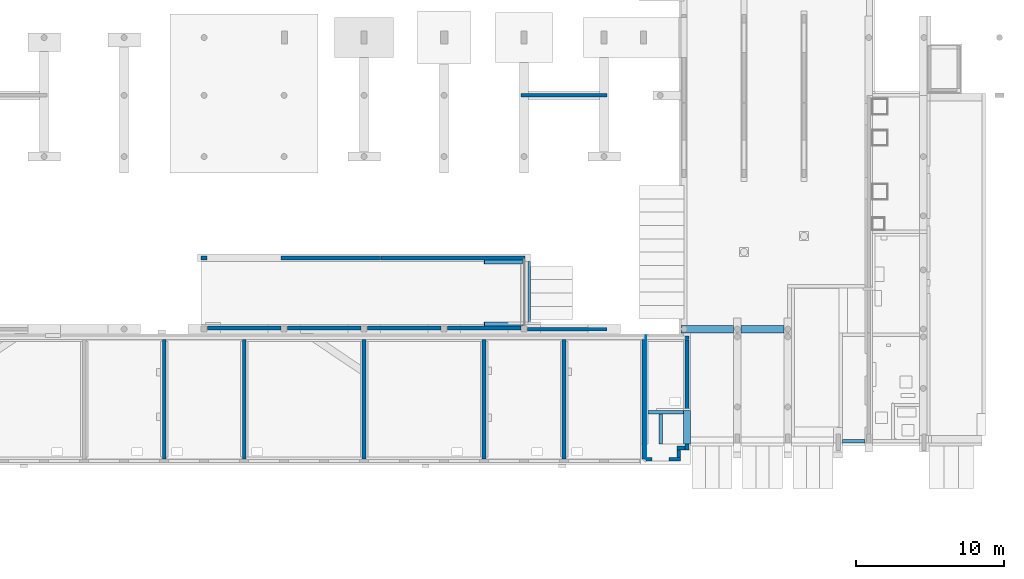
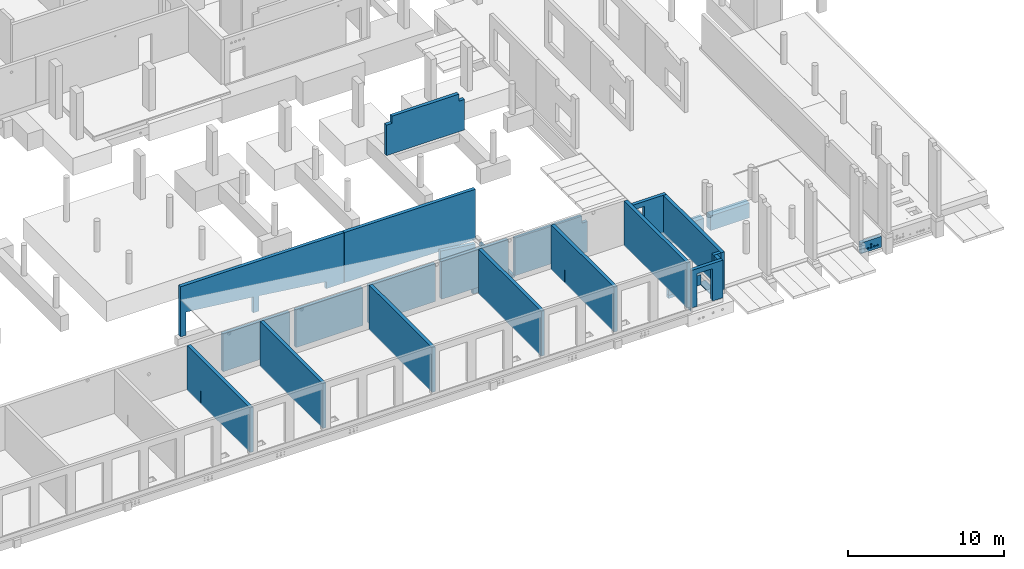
# One storey, part 44 of 60: 30 walls, 21 openings.
"""IFC2X3 building model written with IfcOpenShell, lengths in millimetres."""

import ifcopenshell
import ifcopenshell.guid

model = None  # the IFC model being written
_history = None  # IfcOwnerHistory: only IFC2X3 demands one
_inside = {}  # id of a spatial element -> (the spatial element, [elements in it])
_under = {}  # id of a project, library or spatial element -> (it, [spatial elements below it])
_declared = {}  # id of a project -> (the project, [libraries it declares])
_typed = {}  # id of a type object -> (the type object, [elements of that type])
_made_of = {}  # id of a material, layer set ... -> (it, [elements and type objects made of it])


def new_model(schema):
    """Start an empty IFC model of exactly this schema.

    Asked for "IFC4X3", IfcOpenShell would pick the latest addendum, in which some entities
    have other attributes; the version numbers below select the first issue.
    IFC2X3 requires an IfcOwnerHistory on every rooted entity: one is made here for all.
    """
    global model, _history
    if schema == "IFC4X3":
        model = ifcopenshell.file(schema_version=(4, 3, 0, 0))
    else:
        model = ifcopenshell.file(schema=schema)
    _inside.clear()
    _under.clear()
    _declared.clear()
    _typed.clear()
    _made_of.clear()
    _history = None
    if model.schema == "IFC2X3":
        org = make("IfcOrganization", Name="unknown")
        user = make(
            "IfcPersonAndOrganization",
            ThePerson=make("IfcPerson", FamilyName="unknown"),
            TheOrganization=org,
        )
        app = make(
            "IfcApplication",
            ApplicationDeveloper=org,
            Version="unknown",
            ApplicationFullName="unknown",
            ApplicationIdentifier="unknown",
        )
        _history = make(
            "IfcOwnerHistory",
            OwningUser=user,
            OwningApplication=app,
            ChangeAction="ADDED",
            CreationDate=0,
        )
    return model


def make(cls, **values):
    """One entity of the class cls with the attributes given. An attribute that is None is left unset."""
    return model.create_entity(
        cls, **{name: value for name, value in values.items() if value is not None}
    )


def entity(cls, *values):
    """Any entity or typed value of the class cls, its attributes in the order of the schema. None: left unset."""
    e = model.create_entity(cls)
    for i, value in enumerate(values):
        if value is not None:
            e[i] = value
    return e


def rooted(cls, **values):
    """An entity with a GlobalId (a new one), such as an element, a storey or a relation."""
    return make(cls, GlobalId=ifcopenshell.guid.new(), OwnerHistory=_history, **values)


def si_unit(unit_type, name, prefix=None):
    """IfcSIUnit, for example si_unit("LENGTHUNIT", "METRE", prefix="MILLI")."""
    return make("IfcSIUnit", UnitType=unit_type, Prefix=prefix, Name=name)


def converted_unit(unit_type, name, factor, base, dimensions=None, offset=None):
    """IfcConversionBasedUnit, such as the inch: factor (a typed value) times the base unit."""
    return make(
        "IfcConversionBasedUnit"
        if offset is None
        else "IfcConversionBasedUnitWithOffset",
        ConversionOffset=offset,
        Dimensions=None
        if dimensions is None
        else entity("IfcDimensionalExponents", *dimensions),
        UnitType=unit_type,
        Name=name,
        ConversionFactor=make(
            "IfcMeasureWithUnit", ValueComponent=factor, UnitComponent=base
        ),
    )


def derived_unit(unit_type, elements):
    """IfcDerivedUnit: a product of units, each with its exponent."""
    return make(
        "IfcDerivedUnit",
        Elements=[
            make("IfcDerivedUnitElement", Unit=unit, Exponent=power)
            for unit, power in elements
        ],
        UnitType=unit_type,
    )


def assignment(units):
    """IfcUnitAssignment: the units of a project."""
    return None if units is None else make("IfcUnitAssignment", Units=units)


def point(xyz):
    """IfcCartesianPoint."""
    return None if xyz is None else make("IfcCartesianPoint", Coordinates=xyz)


def direction(xyz):
    """IfcDirection."""
    return None if xyz is None else make("IfcDirection", DirectionRatios=xyz)


def frame(location, z_axis=None, x_axis=None):
    """IfcAxis2Placement3D, a coordinate frame: its origin and axes. An axis left out is left unset."""
    return make(
        "IfcAxis2Placement3D",
        Location=point(location),
        Axis=direction(z_axis),
        RefDirection=direction(x_axis),
    )


def frame_2d(location, x_axis=None):
    """IfcAxis2Placement2D, a coordinate frame in the plane: its origin and x axis."""
    return make(
        "IfcAxis2Placement2D", Location=point(location), RefDirection=direction(x_axis)
    )


def origin():
    """The frame at (0, 0, 0) with its axes left unset."""
    return frame((0.0, 0.0, 0.0))


def origin_2d_with_axis():
    """The frame at (0, 0) in the plane with the x axis (1, 0) written out."""
    return frame_2d((0.0, 0.0), x_axis=(1.0, 0.0))


def place(relative_to, where):
    """IfcLocalPlacement: puts the frame where relative to a parent placement (None: the world)."""
    return make(
        "IfcLocalPlacement", PlacementRelTo=relative_to, RelativePlacement=where
    )


def context(
    kind, dimensions, precision=None, world=None, true_north=None, identifier=None
):
    """IfcGeometricRepresentationContext, for example the 3D "Model" context."""
    return make(
        "IfcGeometricRepresentationContext",
        ContextIdentifier=identifier,
        ContextType=kind,
        CoordinateSpaceDimension=dimensions,
        Precision=precision,
        WorldCoordinateSystem=world,
        TrueNorth=true_north,
    )


def subcontext(parent, identifier, kind, view, scale=None):
    """IfcGeometricRepresentationSubContext, for example "Body" below "Model"."""
    return make(
        "IfcGeometricRepresentationSubContext",
        ContextIdentifier=identifier,
        ContextType=kind,
        ParentContext=parent,
        TargetScale=scale,
        TargetView=view,
    )


def project(units=None, contexts=None):
    """IfcProject with its units and contexts."""
    return rooted(
        "IfcProject",
        Name="project",
        RepresentationContexts=contexts,
        UnitsInContext=assignment(units),
    )


def spatial(cls, under=None, at=None, **own):
    """A site, building, storey or space (cls), placed at a placement, below another one or the project."""
    s = rooted(cls, ObjectPlacement=at, **own)
    if under is not None:
        _under.setdefault(under.id(), (under, []))[1].append(s)
    return s


def polyline(points):
    """IfcPolyline through the points."""
    return make("IfcPolyline", Points=[point(p) for p in points])


def profile(cls, at=None, kind="AREA", **sizes):
    """A parametric profile (cls). Its sizes go by their IFC names, for example OverallWidth=200.0."""
    return make(cls, ProfileType=kind, Position=at, **sizes)


def rectangle(**sizes):
    """IfcRectangleProfileDef."""
    return profile("IfcRectangleProfileDef", **sizes)


def circle(**sizes):
    """IfcCircleProfileDef."""
    return profile("IfcCircleProfileDef", **sizes)


def outline(outer, holes=None, kind="AREA"):
    """IfcArbitraryClosedProfileDef: a profile drawn as a closed curve; with holes, ...WithVoids."""
    if holes is None:
        return make("IfcArbitraryClosedProfileDef", ProfileType=kind, OuterCurve=outer)
    return make(
        "IfcArbitraryProfileDefWithVoids",
        ProfileType=kind,
        OuterCurve=outer,
        InnerCurves=holes,
    )


def extrude(swept, where, along, depth):
    """IfcExtrudedAreaSolid: the profile swept, set in the frame where, extruded along a direction by depth."""
    return make(
        "IfcExtrudedAreaSolid",
        SweptArea=swept,
        Position=where,
        ExtrudedDirection=direction(along),
        Depth=depth,
    )


def clip(a, b, op="DIFFERENCE"):
    """IfcBooleanClippingResult: the solid a cut by the half space b."""
    return make(
        "IfcBooleanClippingResult", Operator=op, FirstOperand=a, SecondOperand=b
    )


def halfspace(plane, agree):
    """IfcHalfSpaceSolid: all space on one side of the plane z = 0 of the frame plane."""
    return make(
        "IfcHalfSpaceSolid",
        BaseSurface=make("IfcPlane", Position=plane),
        AgreementFlag=agree,
    )


def bounded_halfspace(plane, agree, where, boundary):
    """IfcPolygonalBoundedHalfSpace: a half space limited to a polygon's prism."""
    return make(
        "IfcPolygonalBoundedHalfSpace",
        BaseSurface=make("IfcPlane", Position=plane),
        AgreementFlag=agree,
        Position=where,
        PolygonalBoundary=boundary,
    )


def shape(context_of_items, identifier, shape_type, items):
    """IfcShapeRepresentation: the items that make up one representation, for example the "Body"."""
    return make(
        "IfcShapeRepresentation",
        ContextOfItems=context_of_items,
        RepresentationIdentifier=identifier,
        RepresentationType=shape_type,
        Items=items,
    )


def material(Name=None, Category=None):
    """IfcMaterial."""
    return make("IfcMaterial", Name=Name, Category=Category)


def layer(
    of_material, thickness, ventilated=None, Name=None, Category=None, Priority=None
):
    """IfcMaterialLayer: one layer of a wall or slab, of a material (None: an air gap)."""
    return make(
        "IfcMaterialLayer",
        Material=of_material,
        LayerThickness=thickness,
        IsVentilated=ventilated,
        Name=Name,
        Category=Category,
        Priority=Priority,
    )


def layer_set(layers, Name=None):
    """IfcMaterialLayerSet."""
    return make("IfcMaterialLayerSet", MaterialLayers=layers, LayerSetName=Name)


def layer_usage(for_layer_set, set_direction, sense, offset, extent=None):
    """IfcMaterialLayerSetUsage: how a layer set lies in its element."""
    return make(
        "IfcMaterialLayerSetUsage",
        ForLayerSet=for_layer_set,
        LayerSetDirection=set_direction,
        DirectionSense=sense,
        OffsetFromReferenceLine=offset,
        ReferenceExtent=extent,
    )


def made_of(thing, what):
    """Note that an element or type object is made of a material, layer set ...; save() writes the relation."""
    if what is not None:
        _made_of.setdefault(what.id(), (what, []))[1].append(thing)
    return thing


def type_object(cls, material=None, **own):
    """A type object (cls), such as IfcWallType, which elements share."""
    return made_of(rooted(cls, **own), material)


def element(
    cls,
    number,
    at=None,
    inside=None,
    cuts=None,
    type_object=None,
    material=None,
    context=None,
    identifier="Body",
    shape_type=None,
    held_by="IfcProductDefinitionShape",
    body=None,
    shapes=None,
    **own,
):
    """One element of the class cls, such as IfcWall. Its Tag is "e" and its number.

    at: its placement. inside: the storey or other place that contains it. cuts: it is an
    opening in that element (IfcRelVoidsElement). A single representation is given by context,
    identifier, shape_type and body (its items); several are given by shapes. held_by: the class
    of the entity that holds the representations. save() writes the other relations.
    """
    e = rooted(cls, Tag="e%d" % number, ObjectPlacement=at, **own)
    if body is not None:
        shapes = [shape(context, identifier, shape_type, body)]
    if shapes is not None:
        e.Representation = make(held_by, Representations=shapes)
    if inside is not None:
        _inside.setdefault(inside.id(), (inside, []))[1].append(e)
    if cuts is not None:
        rooted(
            "IfcRelVoidsElement", RelatingBuildingElement=cuts, RelatedOpeningElement=e
        )
    if type_object is not None:
        _typed.setdefault(type_object.id(), (type_object, []))[1].append(e)
    return made_of(e, material)


def aggregate(whole, parts):
    """IfcRelAggregates: a whole, such as a stair, and the parts it consists of."""
    return rooted("IfcRelAggregates", RelatingObject=whole, RelatedObjects=parts)


def save(model, path):
    """Write the relations noted so far, then the file.

    IfcRelAggregates (storeys below a building ...), IfcRelContainedInSpatialStructure (elements
    in a storey), IfcRelDefinesByType, IfcRelAssociatesMaterial and IfcRelDeclares: one each for
    every whole, place, type object, material and project.
    """
    for whole, parts in _under.values():
        aggregate(whole, parts)
    for where, things in _inside.values():
        rooted(
            "IfcRelContainedInSpatialStructure",
            RelatedElements=things,
            RelatingStructure=where,
        )
    for kind, things in _typed.values():
        rooted("IfcRelDefinesByType", RelatedObjects=things, RelatingType=kind)
    for what, things in _made_of.values():
        rooted("IfcRelAssociatesMaterial", RelatedObjects=things, RelatingMaterial=what)
    for by, libraries in _declared.values():
        rooted("IfcRelDeclares", RelatingContext=by, RelatedDefinitions=libraries)
    model.write(path)


model = new_model("IFC2X3")

# Units and contexts
model_context = context("Model", 3, precision=0.01, world=origin(), true_north=direction((6.12303176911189e-17, 1.0)))
body_context = subcontext(model_context, "Body", "Model", "MODEL_VIEW")
ifc_project = project(units=[si_unit("LENGTHUNIT", "METRE", prefix="MILLI"), si_unit("AREAUNIT", "SQUARE_METRE"), si_unit("VOLUMEUNIT", "CUBIC_METRE"), converted_unit("PLANEANGLEUNIT", "DEGREE", entity("IfcRatioMeasure", 0.0174532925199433), si_unit("PLANEANGLEUNIT", "RADIAN"), dimensions=[0, 0, 0, 0, 0, 0, 0]), si_unit("MASSUNIT", "GRAM", prefix="KILO"), derived_unit("MASSDENSITYUNIT", [(si_unit("MASSUNIT", "GRAM", prefix="KILO"), 1), (si_unit("LENGTHUNIT", "METRE"), -3)]), si_unit("TIMEUNIT", "SECOND"), si_unit("FREQUENCYUNIT", "HERTZ"), si_unit("THERMODYNAMICTEMPERATUREUNIT", "DEGREE_CELSIUS"), derived_unit("THERMALTRANSMITTANCEUNIT", [(si_unit("MASSUNIT", "GRAM", prefix="KILO"), 1), (si_unit("THERMODYNAMICTEMPERATUREUNIT", "KELVIN"), -1), (si_unit("TIMEUNIT", "SECOND"), -3)]), derived_unit("VOLUMETRICFLOWRATEUNIT", [(si_unit("LENGTHUNIT", "METRE"), 3), (si_unit("TIMEUNIT", "SECOND"), -1)]), si_unit("ELECTRICCURRENTUNIT", "AMPERE"), si_unit("ELECTRICVOLTAGEUNIT", "VOLT"), si_unit("POWERUNIT", "WATT"), si_unit("FORCEUNIT", "NEWTON", prefix="KILO"), si_unit("ILLUMINANCEUNIT", "LUX"), si_unit("LUMINOUSFLUXUNIT", "LUMEN"), si_unit("LUMINOUSINTENSITYUNIT", "CANDELA"), derived_unit("USERDEFINED", [(si_unit("MASSUNIT", "GRAM", prefix="KILO"), -1), (si_unit("LENGTHUNIT", "METRE"), -2), (si_unit("TIMEUNIT", "SECOND"), 3), (si_unit("LUMINOUSFLUXUNIT", "LUMEN"), 1)]), derived_unit("LINEARVELOCITYUNIT", [(si_unit("LENGTHUNIT", "METRE"), 1), (si_unit("TIMEUNIT", "SECOND"), -1)]), si_unit("PRESSUREUNIT", "PASCAL"), derived_unit("USERDEFINED", [(si_unit("LENGTHUNIT", "METRE"), -2), (si_unit("MASSUNIT", "GRAM", prefix="KILO"), 1), (si_unit("TIMEUNIT", "SECOND"), -2)])], contexts=[model_context])

# Site, building, storey
site_placement = place(None, origin())
site = spatial("IfcSite", under=ifc_project, at=site_placement, Name="Default", CompositionType="ELEMENT")
building_placement = place(site_placement, origin())
building = spatial("IfcBuilding", under=site, at=building_placement, Name="niet gebruiken", CompositionType="ELEMENT")
storey_placement = place(building_placement, origin())
storey = spatial("IfcBuildingStorey", under=building, at=storey_placement, Name="00 begane grond", CompositionType="ELEMENT", Elevation=0.0)

# Wall, openings
ifc_material_1 = material(Name="NLRS_f2_beton ihwg")
ifc_layer_1 = layer(ifc_material_1, 250.0)
ifc_layer_set_1 = layer_set([ifc_layer_1], Name="Basic Wall:NLRS_22.21_WA_beton ihwg d=250_gen")
ifc_layer_usage_1 = layer_usage(ifc_layer_set_1, "AXIS2", "NEGATIVE", 125.0)
wall_type_1 = type_object("IfcWallType", Name="Basic Wall:NLRS_22.21_WA_beton ihwg d=250_gen", PredefinedType="STANDARD", material=ifc_layer_set_1)
wall_1_placement = place(storey_placement, frame((67500.0, 8496.0, -160.0), z_axis=(0.0, 0.0, 1.0), x_axis=(0.0, -1.0, 0.0)))
wall_1 = element("IfcWallStandardCase", 1, at=wall_1_placement, inside=storey, type_object=wall_type_1, material=ifc_layer_usage_1, Name="Basic Wall:NLRS_22.21_WA_beton ihwg d=250_gen", ObjectType="Basic Wall:NLRS_22.21_WA_beton ihwg d=250_gen", context=body_context, shape_type="SweptSolid", body=[
    extrude(rectangle(XDim=8075.99999999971, YDim=249.999999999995, at=frame_2d((4037.99999999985, 0.0), x_axis=(-1.0, 0.0))), origin(), (0.0, 0.0, 1.0), 3510.00000000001),
])
opening_1_placement = place(wall_1_placement, origin())
element("IfcOpeningElement", 2, at=opening_1_placement, cuts=wall_1, Name="Basic Wall:NLRS_22.21_WA_beton ihwg d=250_gen", ObjectType="Recess", context=body_context, shape_type="SweptSolid", body=[
    extrude(rectangle(XDim=940.0, YDim=50.0000000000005, at=frame_2d((0.0, 5.41788836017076e-13), x_axis=(1.0, 0.0))), frame((1550.0, 85.0, 540.0), z_axis=(0.0, 1.0, 0.0), x_axis=(0.0, 0.0, -1.0)), (0.0, 0.0, 1.0), 40.0000000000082),
])
opening_2_placement = place(wall_1_placement, origin())
element("IfcOpeningElement", 3, at=opening_2_placement, cuts=wall_1, Name="Basic Wall:NLRS_22.21_WA_beton ihwg d=250_gen", ObjectType="Recess", context=body_context, shape_type="SweptSolid", body=[
    extrude(rectangle(XDim=940.0, YDim=50.0000000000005, at=frame_2d((0.0, -5.41788836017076e-13), x_axis=(1.0, 0.0))), frame((1750.0, -125.0, 540.0), z_axis=(0.0, 1.0, 0.0), x_axis=(0.0, 0.0, -1.0)), (0.0, 0.0, 1.0), 40.0000000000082),
])

# Wall, opening
ifc_layer_usage_2 = layer_usage(ifc_layer_set_1, "AXIS2", "NEGATIVE", 125.0)
wall_2_placement = place(storey_placement, frame((72900.0, 8496.0, -160.0), z_axis=(0.0, 0.0, 1.0), x_axis=(0.0, -1.0, 0.0)))
wall_2 = element("IfcWallStandardCase", 4, at=wall_2_placement, inside=storey, type_object=wall_type_1, material=ifc_layer_usage_2, Name="Basic Wall:NLRS_22.21_WA_beton ihwg d=250_gen", ObjectType="Basic Wall:NLRS_22.21_WA_beton ihwg d=250_gen", context=body_context, shape_type="SweptSolid", body=[
    extrude(rectangle(XDim=8075.99999999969, YDim=249.999999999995, at=frame_2d((4037.99999999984, 0.0), x_axis=(-1.0, 0.0))), origin(), (0.0, 0.0, 1.0), 3510.00000000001),
])
opening_3_placement = place(wall_2_placement, origin())
element("IfcOpeningElement", 5, at=opening_3_placement, cuts=wall_2, Name="Basic Wall:NLRS_22.21_WA_beton ihwg d=250_gen", ObjectType="Recess", context=body_context, shape_type="SweptSolid", body=[
    extrude(rectangle(XDim=940.0, YDim=50.0000000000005, at=frame_2d((0.0, 5.41788836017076e-13), x_axis=(1.0, 0.0))), frame((1550.0, 85.0, 540.0), z_axis=(0.0, 1.0, 0.0), x_axis=(0.0, 0.0, -1.0)), (0.0, 0.0, 1.0), 40.0000000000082),
])

# Wall
ifc_layer_usage_3 = layer_usage(ifc_layer_set_1, "AXIS2", "NEGATIVE", 125.0)
wall_3_placement = place(storey_placement, frame((81000.0, 8496.0, -160.0), z_axis=(0.0, 0.0, 1.0), x_axis=(0.0, -1.0, 0.0)))
element("IfcWallStandardCase", 6, at=wall_3_placement, inside=storey, type_object=wall_type_1, material=ifc_layer_usage_3, Name="Basic Wall:NLRS_22.21_WA_beton ihwg d=250_gen", ObjectType="Basic Wall:NLRS_22.21_WA_beton ihwg d=250_gen", context=body_context, shape_type="SweptSolid", body=[
    extrude(rectangle(XDim=8075.99999999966, YDim=250.000000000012, at=frame_2d((4037.99999999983, 0.0), x_axis=(-1.0, 0.0))), origin(), (0.0, 0.0, 1.0), 3510.00000000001),
])

# Wall, opening
ifc_layer_usage_4 = layer_usage(ifc_layer_set_1, "AXIS2", "NEGATIVE", 125.0)
wall_4_placement = place(storey_placement, frame((89100.0, 8496.0, -160.0), z_axis=(0.0, 0.0, 1.0), x_axis=(0.0, -1.0, 0.0)))
wall_4 = element("IfcWallStandardCase", 7, at=wall_4_placement, inside=storey, type_object=wall_type_1, material=ifc_layer_usage_4, Name="Basic Wall:NLRS_22.21_WA_beton ihwg d=250_gen", ObjectType="Basic Wall:NLRS_22.21_WA_beton ihwg d=250_gen", context=body_context, shape_type="SweptSolid", body=[
    extrude(rectangle(XDim=8075.99999999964, YDim=250.000000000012, at=frame_2d((4037.99999999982, 0.0), x_axis=(-1.0, 0.0))), origin(), (0.0, 0.0, 1.0), 3510.00000000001),
])
opening_4_placement = place(wall_4_placement, origin())
element("IfcOpeningElement", 8, at=opening_4_placement, cuts=wall_4, Name="Basic Wall:NLRS_22.21_WA_beton ihwg d=250_gen", ObjectType="Recess", context=body_context, shape_type="SweptSolid", body=[
    extrude(rectangle(XDim=940.0, YDim=50.0000000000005, at=frame_2d((0.0, 5.41788836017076e-13), x_axis=(1.0, 0.0))), frame((1750.0, -125.0, 540.0), z_axis=(0.0, 1.0, 0.0), x_axis=(0.0, 0.0, -1.0)), (0.0, 0.0, 1.0), 39.9999999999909),
])

# Wall, openings
ifc_layer_usage_5 = layer_usage(ifc_layer_set_1, "AXIS2", "NEGATIVE", 125.0)
wall_5_placement = place(storey_placement, frame((94500.0, 8496.0, -160.0), z_axis=(0.0, 0.0, 1.0), x_axis=(0.0, -1.0, 0.0)))
wall_5 = element("IfcWallStandardCase", 9, at=wall_5_placement, inside=storey, type_object=wall_type_1, material=ifc_layer_usage_5, Name="Basic Wall:NLRS_22.21_WA_beton ihwg d=250_gen", ObjectType="Basic Wall:NLRS_22.21_WA_beton ihwg d=250_gen", context=body_context, shape_type="SweptSolid", body=[
    extrude(rectangle(XDim=8075.99999999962, YDim=250.000000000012, at=frame_2d((4037.99999999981, 0.0), x_axis=(-1.0, 0.0))), origin(), (0.0, 0.0, 1.0), 3510.00000000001),
])
opening_5_placement = place(wall_5_placement, origin())
element("IfcOpeningElement", 10, at=opening_5_placement, cuts=wall_5, Name="Basic Wall:NLRS_22.21_WA_beton ihwg d=250_gen", ObjectType="Recess", context=body_context, shape_type="SweptSolid", body=[
    extrude(rectangle(XDim=940.0, YDim=50.0000000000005, at=frame_2d((0.0, 5.41788836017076e-13), x_axis=(1.0, 0.0))), frame((1750.0, -125.0, 540.0), z_axis=(0.0, 1.0, 0.0), x_axis=(0.0, 0.0, -1.0)), (0.0, 0.0, 1.0), 39.9999999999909),
])
opening_6_placement = place(wall_5_placement, origin())
element("IfcOpeningElement", 11, at=opening_6_placement, cuts=wall_5, Name="Basic Wall:NLRS_22.21_WA_beton ihwg d=250_gen", ObjectType="Recess", context=body_context, shape_type="SweptSolid", body=[
    extrude(rectangle(XDim=940.0, YDim=50.0000000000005, at=frame_2d((0.0, 5.41788836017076e-13), x_axis=(1.0, 0.0))), frame((1550.0, 85.0, 540.0), z_axis=(0.0, 1.0, 0.0), x_axis=(0.0, 0.0, -1.0)), (0.0, 0.0, 1.0), 39.9999999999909),
])

# Wall
ifc_layer_usage_6 = layer_usage(ifc_layer_set_1, "AXIS2", "NEGATIVE", 125.0)
wall_6_placement = place(storey_placement, frame((99900.0, 8496.0, -160.0), z_axis=(0.0, 0.0, 1.0), x_axis=(0.0, -1.0, 0.0)))
element("IfcWallStandardCase", 12, at=wall_6_placement, inside=storey, type_object=wall_type_1, material=ifc_layer_usage_6, Name="Basic Wall:NLRS_22.21_WA_beton ihwg d=250_gen", ObjectType="Basic Wall:NLRS_22.21_WA_beton ihwg d=250_gen", context=body_context, shape_type="SweptSolid", body=[
    extrude(rectangle(XDim=8075.9999999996, YDim=250.000000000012, at=frame_2d((4037.9999999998, 0.0), x_axis=(-1.0, 0.0))), origin(), (0.0, 0.0, 1.0), 3510.00000000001),
])

# Wall, openings
ifc_layer_usage_7 = layer_usage(ifc_layer_set_1, "AXIS2", "NEGATIVE", 125.0)
wall_7_placement = place(storey_placement, frame((100150.0, 3575.0, -1400.0)))
wall_7 = element("IfcWallStandardCase", 13, at=wall_7_placement, inside=storey, type_object=wall_type_1, material=ifc_layer_usage_7, Name="Basic Wall:NLRS_22.21_WA_beton ihwg d=250_gen", ObjectType="Basic Wall:NLRS_22.21_WA_beton ihwg d=250_gen", context=body_context, shape_type="Clipping", body=[
    clip(clip(extrude(rectangle(XDim=2400.00000000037, YDim=250.000000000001, at=frame_2d((1200.00000000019, -8.5265128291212e-14), x_axis=(-1.0, 0.0))), origin(), (0.0, 0.0, 1.0), 908.0), bounded_halfspace(frame((600.0, -125.0, 250.0), z_axis=(0.0, 0.0, 1.0), x_axis=(0.0, 1.0, 0.0)), True, frame((600.0, -125.0, 250.0), z_axis=(0.0, 0.0, 1.0), x_axis=(0.0, 1.0, 0.0)), polyline([(0.0, 0.0), (0.0, -150.0), (0.0, -400.0), (0.0, -1800.0), (250.0, -1800.0), (250.0, 0.0), (0.0, 0.0)]))), bounded_halfspace(frame((600.0, 125.0, 250.0), z_axis=(-1.0, 0.0, 0.0), x_axis=(0.0, 0.0, 1.0)), True, frame((600.0, 125.0, 250.0), z_axis=(-1.0, 0.0, 0.0), x_axis=(0.0, 0.0, 1.0)), polyline([(0.0, 0.0), (-250.0, 0.0), (-250.0, -250.0), (0.0, -250.0), (0.0, 0.0)]))),
])
opening_7_placement = place(wall_7_placement, origin())
element("IfcOpeningElement", 14, at=opening_7_placement, cuts=wall_7, Name="Basic Wall:NLRS_22.21_WA_beton ihwg d=250_gen", ObjectType="Opening", context=body_context, shape_type="SweptSolid", body=[
    extrude(circle(Radius=80.0, at=frame_2d((0.0, -2.70716782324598e-13), x_axis=(1.0, 0.0))), frame((620.0, -125.0, 390.0), z_axis=(0.0, 1.0, 0.0), x_axis=(1.0, 0.0, 0.0)), (0.0, 0.0, 1.0), 250.0),
])
opening_8_placement = place(wall_7_placement, origin())
element("IfcOpeningElement", 15, at=opening_8_placement, cuts=wall_7, Name="Basic Wall:NLRS_22.21_WA_beton ihwg d=250_gen", ObjectType="Opening", context=body_context, shape_type="SweptSolid", body=[
    extrude(circle(Radius=80.0, at=frame_2d((0.0, -2.70716782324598e-13), x_axis=(1.0, 0.0))), frame((320.0, -125.0, 390.0), z_axis=(0.0, 1.0, 0.0), x_axis=(1.0, 0.0, 0.0)), (0.0, 0.0, 1.0), 250.0),
])

# Wall, opening
ifc_material_2 = material(Name="NLRS_f2_beton prefab")
ifc_layer_2 = layer(ifc_material_2, 250.0)
ifc_layer_set_2 = layer_set([ifc_layer_2], Name="Basic Wall:NLRS_21.21_WA_beton prefab d=250_gen")
ifc_layer_usage_8 = layer_usage(ifc_layer_set_2, "AXIS2", "NEGATIVE", 125.0)
wall_type_2 = type_object("IfcWallType", Name="Basic Wall:NLRS_21.21_WA_beton prefab d=250_gen", PredefinedType="STANDARD", material=ifc_layer_set_2)
wall_8_placement = place(storey_placement, frame((100045.0, 8621.0, -170.0)))
wall_8 = element("IfcWallStandardCase", 16, at=wall_8_placement, inside=storey, type_object=wall_type_2, material=ifc_layer_usage_8, Name="Basic Wall:NLRS_21.21_WA_beton prefab d=250_gen", ObjectType="Basic Wall:NLRS_21.21_WA_beton prefab d=250_gen", context=body_context, shape_type="SweptSolid", body=[
    extrude(rectangle(XDim=2880.00000000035, YDim=249.999999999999, at=frame_2d((1440.00000000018, -5.6843418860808e-14), x_axis=(-1.0, 0.0))), origin(), (0.0, 0.0, 1.0), 2940.00000000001),
])
opening_9_placement = place(wall_8_placement, origin())
element("IfcOpeningElement", 17, at=opening_9_placement, cuts=wall_8, Name="Basic Wall:NLRS_21.21_WA_beton prefab d=250_gen", ObjectType="Opening", context=body_context, shape_type="SweptSolid", body=[
    extrude(rectangle(XDim=2555.0, YDim=1015.99999999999, at=frame_2d((0.0, 8.66862137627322e-12), x_axis=(1.0, 0.0))), frame((724.000540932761, -125.0, 1277.5), z_axis=(0.0, 1.0, 0.0), x_axis=(0.0, 0.0, -1.0)), (0.0, 0.0, 1.0), 250.000000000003),
])

ifc_layer_usage_9 = layer_usage(ifc_layer_set_2, "AXIS2", "NEGATIVE", 125.0)
wall_9_placement = place(storey_placement, frame((100045.0, 410.0, -170.0)))
wall_9 = element("IfcWallStandardCase", 18, at=wall_9_placement, inside=storey, type_object=wall_type_2, material=ifc_layer_usage_9, Name="Basic Wall:NLRS_21.21_WA_beton prefab d=250_gen", ObjectType="Basic Wall:NLRS_21.21_WA_beton prefab d=250_gen", context=body_context, shape_type="SweptSolid", body=[
    extrude(rectangle(XDim=2330.00027871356, YDim=250.0, at=frame_2d((1165.00013935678, -2.8421709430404e-14), x_axis=(-1.0, 0.0))), origin(), (0.0, 0.0, 1.0), 2940.00000000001),
])
opening_10_placement = place(wall_9_placement, origin())
element("IfcOpeningElement", 19, at=opening_10_placement, cuts=wall_9, Name="Basic Wall:NLRS_21.21_WA_beton prefab d=250_gen", ObjectType="Opening", context=body_context, shape_type="SweptSolid", body=[
    extrude(rectangle(XDim=2545.0, YDim=1144.0, at=origin_2d_with_axis()), frame((972.0, -125.0, 1272.5), z_axis=(0.0, 1.0, 0.0), x_axis=(0.0, 0.0, -1.0)), (0.0, 0.0, 1.0), 250.000000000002),
])

# Walls
ifc_layer_usage_10 = layer_usage(ifc_layer_set_2, "AXIS2", "NEGATIVE", 125.0)
wall_10_placement = place(storey_placement, frame((102125.000278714, 1175.0, -170.0)))
element("IfcWallStandardCase", 20, at=wall_10_placement, inside=storey, type_object=wall_type_2, material=ifc_layer_usage_10, Name="Basic Wall:NLRS_21.21_WA_beton prefab d=250_gen", ObjectType="Basic Wall:NLRS_21.21_WA_beton prefab d=250_gen", context=body_context, shape_type="SweptSolid", body=[
    extrude(rectangle(XDim=549.999721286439, YDim=250.0, at=frame_2d((274.99986064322, 7.105427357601e-15), x_axis=(-1.0, 0.0))), origin(), (0.0, 0.0, 1.0), 2940.00000000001),
])
ifc_layer_usage_11 = layer_usage(ifc_layer_set_2, "AXIS2", "NEGATIVE", 125.0)
wall_11_placement = place(storey_placement, frame((102800.0, 1050.0, -170.0), z_axis=(0.0, 0.0, 1.0), x_axis=(0.0, 1.0, 0.0)))
element("IfcWallStandardCase", 21, at=wall_11_placement, inside=storey, type_object=wall_type_2, material=ifc_layer_usage_11, Name="Basic Wall:NLRS_21.21_WA_beton prefab d=250_gen", ObjectType="Basic Wall:NLRS_21.21_WA_beton prefab d=250_gen", context=body_context, shape_type="SweptSolid", body=[
    extrude(rectangle(XDim=7425.99999999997, YDim=250.000000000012, at=frame_2d((3712.99999999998, 7.17648163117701e-13), x_axis=(-1.0, 0.0))), origin(), (0.0, 0.0, 1.0), 2940.00000000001),
])
ifc_layer_usage_12 = layer_usage(ifc_layer_set_2, "AXIS2", "NEGATIVE", 125.0)
wall_12_placement = place(storey_placement, frame((102250.000278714, 535.0, -170.0), z_axis=(0.0, 0.0, 1.0), x_axis=(0.0, 1.0, 0.0)))
element("IfcWallStandardCase", 22, at=wall_12_placement, inside=storey, type_object=wall_type_2, material=ifc_layer_usage_12, Name="Basic Wall:NLRS_21.21_WA_beton prefab d=250_gen", ObjectType="Basic Wall:NLRS_21.21_WA_beton prefab d=250_gen", context=body_context, shape_type="SweptSolid", body=[
    extrude(rectangle(XDim=515.000000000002, YDim=250.000000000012, at=frame_2d((257.500000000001, 1.25055521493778e-12), x_axis=(-1.0, 0.0))), origin(), (0.0, 0.0, 1.0), 2940.00000000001),
])

# Wall, openings
ifc_layer_3 = layer(ifc_material_2, 250.0)
ifc_layer_set_3 = layer_set([ifc_layer_3], Name="Basic Wall:NLRS_22.21_WA_beton prefab d=250_gen")
ifc_layer_usage_13 = layer_usage(ifc_layer_set_3, "AXIS2", "NEGATIVE", 125.0)
wall_type_3 = type_object("IfcWallType", Name="Basic Wall:NLRS_22.21_WA_beton prefab d=250_gen", PredefinedType="STANDARD", material=ifc_layer_set_3)
wall_13_placement = place(storey_placement, frame((70000.0, 14001.0, -170.0)))
wall_13 = element("IfcWallStandardCase", 23, at=wall_13_placement, inside=storey, type_object=wall_type_3, material=ifc_layer_usage_13, Name="Basic Wall:NLRS_22.21_WA_beton prefab d=250_gen", ObjectType="Basic Wall:NLRS_22.21_WA_beton prefab d=250_gen", context=body_context, shape_type="SweptSolid", body=[
    extrude(rectangle(XDim=12120.0, YDim=249.999999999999, at=frame_2d((6060.0, 0.0), x_axis=(-1.0, 0.0))), origin(), (0.0, 0.0, 1.0), 3940.00000000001),
])
opening_11_placement = place(wall_13_placement, origin())
element("IfcOpeningElement", 24, at=opening_11_placement, cuts=wall_13, Name="Basic Wall:NLRS_22.21_WA_beton prefab d=250_gen", ObjectType="Opening", context=body_context, shape_type="SweptSolid", body=[
    extrude(outline(polyline([(-2500.0, -766.91532367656), (2500.0, -766.91532367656), (2500.0, 480.313471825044), (-2500.0, 1053.51717552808), (-2500.0, -766.91532367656)])), frame((2900.0, 125.0, 766.915323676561), z_axis=(0.0, -1.0, 0.0), x_axis=(1.0, 0.0, 0.0)), (0.0, 0.0, 1.0), 250.0),
])
opening_12_placement = place(wall_13_placement, origin())
element("IfcOpeningElement", 25, at=opening_12_placement, cuts=wall_13, Name="Basic Wall:NLRS_22.21_WA_beton prefab d=250_gen", ObjectType="Opening", context=body_context, shape_type="SweptSolid", body=[
    extrude(outline(polyline([(-2500.0, -437.665323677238), (2500.0, -437.665323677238), (2500.0, 117.063471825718), (-2500.0, 758.267175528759), (-2500.0, -437.665323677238)])), frame((8300.0, 125.0, 437.665323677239), z_axis=(0.0, -1.0, 0.0), x_axis=(1.0, 0.0, 0.0)), (0.0, 0.0, 1.0), 250.0),
])

# Walls
ifc_layer_usage_14 = layer_usage(ifc_layer_set_3, "AXIS2", "NEGATIVE", 125.0)
wall_14_placement = place(storey_placement, frame((82140.0, 14001.0, -170.0)))
element("IfcWallStandardCase", 26, at=wall_14_placement, inside=storey, type_object=wall_type_3, material=ifc_layer_usage_14, Name="Basic Wall:NLRS_22.21_WA_beton prefab d=250_gen", ObjectType="Basic Wall:NLRS_22.21_WA_beton prefab d=250_gen", context=body_context, shape_type="SweptSolid", body=[
    extrude(rectangle(XDim=9709.99983721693, YDim=249.999999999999, at=frame_2d((4854.99991860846, 4.54747350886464e-13), x_axis=(-1.0, 0.0))), origin(), (0.0, 0.0, 1.0), 3940.00000000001),
])
ifc_layer_usage_15 = layer_usage(ifc_layer_set_3, "AXIS2", "NEGATIVE", 125.0)
wall_15_placement = place(storey_placement, frame((70420.0, 9271.0, -170.0)))
element("IfcWallStandardCase", 27, at=wall_15_placement, inside=storey, type_object=wall_type_3, material=ifc_layer_usage_15, Name="Basic Wall:NLRS_22.21_WA_beton prefab d=250_gen", ObjectType="Basic Wall:NLRS_22.21_WA_beton prefab d=250_gen", context=body_context, shape_type="SweptSolid", body=[
    extrude(rectangle(XDim=4960.0, YDim=249.999999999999, at=frame_2d((2480.0, -1.63424829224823e-13), x_axis=(-1.0, 0.0))), origin(), (0.0, 0.0, 1.0), 2950.00000000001),
])
ifc_layer_usage_16 = layer_usage(ifc_layer_set_3, "AXIS2", "NEGATIVE", 125.0)
wall_16_placement = place(storey_placement, frame((75820.0, 9271.0, -170.0)))
element("IfcWallStandardCase", 28, at=wall_16_placement, inside=storey, type_object=wall_type_3, material=ifc_layer_usage_16, Name="Basic Wall:NLRS_22.21_WA_beton prefab d=250_gen", ObjectType="Basic Wall:NLRS_22.21_WA_beton prefab d=250_gen", context=body_context, shape_type="SweptSolid", body=[
    extrude(rectangle(XDim=4960.0, YDim=249.999999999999, at=frame_2d((2480.0, -7.105427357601e-14), x_axis=(-1.0, 0.0))), origin(), (0.0, 0.0, 1.0), 2950.00000000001),
])
ifc_layer_usage_17 = layer_usage(ifc_layer_set_3, "AXIS2", "NEGATIVE", 125.0)
wall_17_placement = place(storey_placement, frame((81220.0, 9271.0, -170.0)))
element("IfcWallStandardCase", 29, at=wall_17_placement, inside=storey, type_object=wall_type_3, material=ifc_layer_usage_17, Name="Basic Wall:NLRS_22.21_WA_beton prefab d=250_gen", ObjectType="Basic Wall:NLRS_22.21_WA_beton prefab d=250_gen", context=body_context, shape_type="SweptSolid", body=[
    extrude(rectangle(XDim=4960.0, YDim=249.999999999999, at=frame_2d((2480.0, -7.105427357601e-14), x_axis=(-1.0, 0.0))), origin(), (0.0, 0.0, 1.0), 2950.00000000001),
])
ifc_layer_usage_18 = layer_usage(ifc_layer_set_3, "AXIS2", "NEGATIVE", 125.0)
wall_18_placement = place(storey_placement, frame((86620.0, 9271.0, -170.0)))
element("IfcWallStandardCase", 30, at=wall_18_placement, inside=storey, type_object=wall_type_3, material=ifc_layer_usage_18, Name="Basic Wall:NLRS_22.21_WA_beton prefab d=250_gen", ObjectType="Basic Wall:NLRS_22.21_WA_beton prefab d=250_gen", context=body_context, shape_type="SweptSolid", body=[
    extrude(rectangle(XDim=4960.0, YDim=249.999999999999, at=frame_2d((2480.0, -7.105427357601e-14), x_axis=(-1.0, 0.0))), origin(), (0.0, 0.0, 1.0), 2950.00000000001),
])

# Wall, openings
ifc_layer_4 = layer(ifc_material_1, 250.0)
ifc_layer_set_4 = layer_set([ifc_layer_4], Name="Basic Wall:NLRS_16.21_WA_beton ihwg d=250_gen")
ifc_layer_usage_19 = layer_usage(ifc_layer_set_4, "AXIS2", "NEGATIVE", 125.0)
wall_type_4 = type_object("IfcWallType", Name="Basic Wall:NLRS_16.21_WA_beton ihwg d=250_gen", PredefinedType="STANDARD", material=ifc_layer_set_4)
wall_19_placement = place(storey_placement, frame((113300.000370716, 1625.0, -1300.0)))
wall_19 = element("IfcWallStandardCase", 31, at=wall_19_placement, inside=storey, type_object=wall_type_4, material=ifc_layer_usage_19, Name="Basic Wall:NLRS_16.21_WA_beton ihwg d=250_gen", ObjectType="Basic Wall:NLRS_16.21_WA_beton ihwg d=250_gen", context=body_context, shape_type="SweptSolid", body=[
    extrude(rectangle(XDim=1524.99962928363, YDim=250.0, at=frame_2d((762.499814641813, 0.0), x_axis=(-1.0, 0.0))), origin(), (0.0, 0.0, 1.0), 850.0),
])
opening_13_placement = place(wall_19_placement, origin())
element("IfcOpeningElement", 32, at=opening_13_placement, cuts=wall_19, Name="Basic Wall:NLRS_16.21_WA_beton ihwg d=250_gen", ObjectType="Opening", context=body_context, shape_type="SweptSolid", body=[
    extrude(circle(Radius=75.0, at=frame_2d((0.0, -1.35358391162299e-13), x_axis=(1.0, 0.0))), frame((992.0, -125.0, 250.0), z_axis=(0.0, 1.0, 0.0), x_axis=(-1.0, 0.0, 0.0)), (0.0, 0.0, 1.0), 250.0),
])
opening_14_placement = place(wall_19_placement, origin())
element("IfcOpeningElement", 33, at=opening_14_placement, cuts=wall_19, Name="Basic Wall:NLRS_16.21_WA_beton ihwg d=250_gen", ObjectType="Opening", context=body_context, shape_type="SweptSolid", body=[
    extrude(circle(Radius=75.0, at=frame_2d((0.0, -1.35358391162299e-13), x_axis=(1.0, 0.0))), frame((761.999629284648, -125.0, 480.0), z_axis=(0.0, 1.0, 0.0), x_axis=(-1.0, 0.0, 0.0)), (0.0, 0.0, 1.0), 250.0),
])
opening_15_placement = place(wall_19_placement, origin())
element("IfcOpeningElement", 34, at=opening_15_placement, cuts=wall_19, Name="Basic Wall:NLRS_16.21_WA_beton ihwg d=250_gen", ObjectType="Opening", context=body_context, shape_type="SweptSolid", body=[
    extrude(circle(Radius=75.0, at=frame_2d((0.0, -1.35358391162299e-13), x_axis=(1.0, 0.0))), frame((532.0, -125.0, 250.0), z_axis=(0.0, 1.0, 0.0), x_axis=(-1.0, 0.0, 0.0)), (0.0, 0.0, 1.0), 250.0),
])
opening_16_placement = place(wall_19_placement, origin())
element("IfcOpeningElement", 35, at=opening_16_placement, cuts=wall_19, Name="Basic Wall:NLRS_16.21_WA_beton ihwg d=250_gen", ObjectType="Opening", context=body_context, shape_type="SweptSolid", body=[
    extrude(circle(Radius=75.0, at=frame_2d((0.0, -1.35358391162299e-13), x_axis=(1.0, 0.0))), frame((1221.99962928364, -125.0, 250.0), z_axis=(0.0, 1.0, 0.0), x_axis=(-1.0, 0.0, 0.0)), (0.0, 0.0, 1.0), 250.0),
])
opening_17_placement = place(wall_19_placement, origin())
element("IfcOpeningElement", 36, at=opening_17_placement, cuts=wall_19, Name="Basic Wall:NLRS_16.21_WA_beton ihwg d=250_gen", ObjectType="Opening", context=body_context, shape_type="SweptSolid", body=[
    extrude(circle(Radius=75.0, at=frame_2d((0.0, -1.35358391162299e-13), x_axis=(1.0, 0.0))), frame((761.999629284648, -125.0, 250.0), z_axis=(0.0, 1.0, 0.0), x_axis=(-1.0, 0.0, 0.0)), (0.0, 0.0, 1.0), 250.0),
])
opening_18_placement = place(wall_19_placement, origin())
element("IfcOpeningElement", 37, at=opening_18_placement, cuts=wall_19, Name="Basic Wall:NLRS_16.21_WA_beton ihwg d=250_gen", ObjectType="Opening", context=body_context, shape_type="SweptSolid", body=[
    extrude(circle(Radius=75.0, at=frame_2d((0.0, -1.35358391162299e-13), x_axis=(1.0, 0.0))), frame((302.0, -125.0, 250.0), z_axis=(0.0, 1.0, 0.0), x_axis=(-1.0, 0.0, 0.0)), (0.0, 0.0, 1.0), 250.0),
])

# Walls
ifc_layer_usage_20 = layer_usage(ifc_layer_set_4, "AXIS2", "NEGATIVE", 125.0)
wall_20_placement = place(storey_placement, frame((100150.0, 3575.0, -1150.0)))
element("IfcWallStandardCase", 38, at=wall_20_placement, inside=storey, type_object=wall_type_4, material=ifc_layer_usage_20, Name="Basic Wall:NLRS_16.21_WA_beton ihwg d=250_gen", ObjectType="Basic Wall:NLRS_16.21_WA_beton ihwg d=250_gen", context=body_context, shape_type="SweptSolid", body=[
    extrude(rectangle(XDim=2400.00000000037, YDim=250.000000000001, at=frame_2d((1200.00000000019, -4.2632564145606e-14), x_axis=(-1.0, 0.0))), origin(), (0.0, 0.0, 1.0), 800.0),
])
ifc_layer_usage_21 = layer_usage(ifc_layer_set_4, "AXIS2", "NEGATIVE", 125.0)
wall_21_placement = place(storey_placement, frame((101025.0, 1450.0, -1150.0), z_axis=(0.0, 0.0, 1.0), x_axis=(0.0, 1.0, 0.0)))
element("IfcWallStandardCase", 39, at=wall_21_placement, inside=storey, type_object=wall_type_4, material=ifc_layer_usage_21, Name="Basic Wall:NLRS_16.21_WA_beton ihwg d=250_gen", ObjectType="Basic Wall:NLRS_16.21_WA_beton ihwg d=250_gen", context=body_context, shape_type="SweptSolid", body=[
    extrude(rectangle(XDim=1999.99999999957, YDim=250.000000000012, at=frame_2d((999.999999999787, 1.25766064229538e-12), x_axis=(-1.0, 0.0))), origin(), (0.0, 0.0, 1.0), 658.0),
])
ifc_layer_5 = layer(ifc_material_1, 500.0)
ifc_layer_set_5 = layer_set([ifc_layer_5], Name="Basic Wall:NLRS_16.21_WA_beton ihwg d=500_gen")
ifc_layer_usage_22 = layer_usage(ifc_layer_set_5, "AXIS2", "NEGATIVE", 250.0)
wall_type_5 = type_object("IfcWallType", Name="Basic Wall:NLRS_16.21_WA_beton ihwg d=500_gen", PredefinedType="STANDARD", material=ifc_layer_set_5)
wall_22_placement = place(storey_placement, frame((102400.0, 9196.0, -1600.0)))
element("IfcWallStandardCase", 40, at=wall_22_placement, inside=storey, type_object=wall_type_5, material=ifc_layer_usage_22, Name="Basic Wall:NLRS_16.21_WA_beton ihwg d=500_gen", ObjectType="Basic Wall:NLRS_16.21_WA_beton ihwg d=500_gen", context=body_context, shape_type="SweptSolid", body=[
    extrude(rectangle(XDim=3550.00037071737, YDim=500.000000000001, at=frame_2d((1775.00018535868, 0.0), x_axis=(-1.0, 0.0))), origin(), (0.0, 0.0, 1.0), 1150.0),
])
ifc_layer_usage_23 = layer_usage(ifc_layer_set_5, "AXIS2", "NEGATIVE", 250.0)
wall_23_placement = place(storey_placement, frame((106450.000370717, 9196.0, -1600.0)))
element("IfcWallStandardCase", 41, at=wall_23_placement, inside=storey, type_object=wall_type_5, material=ifc_layer_usage_23, Name="Basic Wall:NLRS_16.21_WA_beton ihwg d=500_gen", ObjectType="Basic Wall:NLRS_16.21_WA_beton ihwg d=500_gen", context=body_context, shape_type="SweptSolid", body=[
    extrude(rectangle(XDim=2899.99999999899, YDim=499.999999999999, at=frame_2d((1449.9999999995, 0.0), x_axis=(-1.0, 0.0))), origin(), (0.0, 0.0, 1.0), 1150.0),
])
ifc_layer_usage_24 = layer_usage(ifc_layer_set_5, "AXIS2", "NEGATIVE", 250.0)
wall_24_placement = place(storey_placement, frame((102800.0, 1450.0, -1150.0), z_axis=(0.0, 0.0, 1.0), x_axis=(0.0, 1.0, 0.0)))
element("IfcWallStandardCase", 42, at=wall_24_placement, inside=storey, type_object=wall_type_5, material=ifc_layer_usage_24, Name="Basic Wall:NLRS_16.21_WA_beton ihwg d=500_gen", ObjectType="Basic Wall:NLRS_16.21_WA_beton ihwg d=500_gen", context=body_context, shape_type="SweptSolid", body=[
    extrude(rectangle(XDim=2249.99999999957, YDim=499.99999999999, at=frame_2d((1124.99999999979, 0.0), x_axis=(-1.0, 0.0))), origin(), (0.0, 0.0, 1.0), 58.0000000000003),
])

# Wall, openings
ifc_layer_6 = layer(ifc_material_2, 250.0)
ifc_layer_set_6 = layer_set([ifc_layer_6], Name="Basic Wall:NLRS_16.21_WA_beton prefab d=250_gen")
ifc_layer_usage_25 = layer_usage(ifc_layer_set_6, "AXIS2", "NEGATIVE", 125.0)
wall_type_6 = type_object("IfcWallType", Name="Basic Wall:NLRS_16.21_WA_beton prefab d=250_gen", PredefinedType="STANDARD", material=ifc_layer_set_6)
wall_25_placement = place(storey_placement, frame((91600.0, 24976.0, -170.0)))
wall_25 = element("IfcWallStandardCase", 43, at=wall_25_placement, inside=storey, type_object=wall_type_6, material=ifc_layer_usage_25, Name="Basic Wall:NLRS_16.21_WA_beton prefab d=250_gen", ObjectType="Basic Wall:NLRS_16.21_WA_beton prefab d=250_gen", context=body_context, shape_type="SweptSolid", body=[
    extrude(rectangle(XDim=5799.99999999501, YDim=250.000000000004, at=frame_2d((2899.9999999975, -2.20268248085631e-13), x_axis=(-1.0, 0.0))), origin(), (0.0, 0.0, 1.0), 2950.00000000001),
])
opening_19_placement = place(wall_25_placement, origin())
element("IfcOpeningElement", 44, at=opening_19_placement, cuts=wall_25, Name="Basic Wall:NLRS_16.21_WA_beton prefab d=250_gen", ObjectType="Opening", context=body_context, shape_type="SweptSolid", body=[
    extrude(rectangle(XDim=560.00000000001, YDim=420.000000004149, at=frame_2d((0.0, 8.66862137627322e-12), x_axis=(1.0, 0.0))), frame((5590.0, 125.0, 2670.0), z_axis=(0.0, -1.0, 0.0), x_axis=(0.0, 0.0, 1.0)), (0.0, 0.0, 1.0), 250.0),
])
opening_20_placement = place(wall_25_placement, origin())
element("IfcOpeningElement", 45, at=opening_20_placement, cuts=wall_25, Name="Basic Wall:NLRS_16.21_WA_beton prefab d=250_gen", ObjectType="Opening", context=body_context, shape_type="SweptSolid", body=[
    extrude(rectangle(XDim=560.00000000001, YDim=420.000000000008, at=frame_2d((0.0, 0.0), x_axis=(0.0, 1.0))), frame((210.0, 125.0, 2670.0), z_axis=(0.0, -1.0, 0.0), x_axis=(-1.0, 0.0, 0.0)), (0.0, 0.0, 1.0), 250.0),
])

# Wall, opening
ifc_layer_usage_26 = layer_usage(ifc_layer_set_6, "AXIS2", "NEGATIVE", 125.0)
wall_26_placement = place(storey_placement, frame((92020.0, 9196.0, -170.0)))
wall_26 = element("IfcWallStandardCase", 46, at=wall_26_placement, inside=storey, type_object=wall_type_6, material=ifc_layer_usage_26, Name="Basic Wall:NLRS_16.21_WA_beton prefab d=250_gen", ObjectType="Basic Wall:NLRS_16.21_WA_beton prefab d=250_gen", context=body_context, shape_type="SweptSolid", body=[
    extrude(rectangle(XDim=5379.99999999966, YDim=249.999999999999, at=frame_2d((2689.99999999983, -6.3948846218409e-14), x_axis=(-1.0, 0.0))), origin(), (0.0, 0.0, 1.0), 2950.00000000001),
])
opening_21_placement = place(wall_26_placement, origin())
element("IfcOpeningElement", 47, at=opening_21_placement, cuts=wall_26, Name="Basic Wall:NLRS_16.21_WA_beton prefab d=250_gen", ObjectType="Opening", context=body_context, shape_type="SweptSolid", body=[
    extrude(rectangle(XDim=560.00000000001, YDim=420.000000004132, at=frame_2d((1.4210854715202e-13, 0.0), x_axis=(1.0, 0.0))), frame((5170.0, 125.0, 2670.0), z_axis=(0.0, -1.0, 0.0), x_axis=(0.0, 0.0, 1.0)), (0.0, 0.0, 1.0), 250.0),
])

# Walls
wall_type_7 = type_object("IfcWallType", Name="NLRS_16.12_SF_WPB_oplegnok ihwg beton_gen:200x200", PredefinedType="NOTDEFINED", material=ifc_material_1)
wall_27_placement = place(storey_placement, frame((92050.0, 9496.0, -600.0), z_axis=(0.0, 0.0, 1.0), x_axis=(0.0, 1.0, 0.0)))
element("IfcWall", 48, at=wall_27_placement, inside=storey, type_object=wall_type_7, material=ifc_material_1, Name="NLRS_16.12_SF_WPB_oplegnok ihwg beton_gen:200x200", ObjectType="NLRS_16.12_SF_WPB_oplegnok ihwg beton_gen:200x200", context=body_context, shape_type="SweptSolid", body=[
    extrude(rectangle(XDim=199.999999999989, YDim=4254.99999999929, at=frame_2d((8.66151594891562e-12, -652.500000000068), x_axis=(1.0, 0.0))), frame((1475.0, -100.0, 0.0), z_axis=(0.0, 0.0, 1.0), x_axis=(0.0, 1.0, 0.0)), (0.0, 0.0, 1.0), 199.999999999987),
])
ifc_material_3 = material(Name="NLRS_n7_isolatie EPS")
ifc_layer_7 = layer(ifc_material_3, 20.0)
ifc_layer_set_7 = layer_set([ifc_layer_7], Name="Basic Wall:NLRS_21.12_WA_isolatie EPS platen d=20_gen")
ifc_layer_usage_27 = layer_usage(ifc_layer_set_7, "AXIS2", "NEGATIVE", 10.0)
wall_type_8 = type_object("IfcWallType", Name="Basic Wall:NLRS_21.12_WA_isolatie EPS platen d=20_gen", PredefinedType="STANDARD", material=ifc_layer_set_7)
wall_28_placement = place(storey_placement, frame((100035.0, 400.0, -492.0), z_axis=(0.0, 0.0, 1.0), x_axis=(0.0, 1.0, 0.0)))
element("IfcWallStandardCase", 49, at=wall_28_placement, inside=storey, type_object=wall_type_8, material=ifc_layer_usage_27, Name="Basic Wall:NLRS_21.12_WA_isolatie EPS platen d=20_gen", ObjectType="Basic Wall:NLRS_21.12_WA_isolatie EPS platen d=20_gen", context=body_context, shape_type="SweptSolid", body=[
    extrude(rectangle(XDim=8345.99999999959, YDim=19.9999999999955, at=frame_2d((4172.99999999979, 8.88178419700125e-15), x_axis=(-1.0, 0.0))), origin(), (0.0, 0.0, 1.0), 402.000000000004),
])
ifc_layer_8 = layer(ifc_material_1, 250.0)
ifc_layer_set_8 = layer_set([ifc_layer_8], Name="Basic Wall:NLRS_16.12_WA_beton ihwg d=250_gen")
ifc_layer_usage_28 = layer_usage(ifc_layer_set_8, "AXIS2", "NEGATIVE", 125.0)
wall_type_9 = type_object("IfcWallType", Name="Basic Wall:NLRS_16.12_WA_beton ihwg d=250_gen", PredefinedType="STANDARD", material=ifc_layer_set_8)
wall_29_placement = place(storey_placement, frame((89100.0, 13731.0, -800.0)))
element("IfcWallStandardCase", 50, at=wall_29_placement, inside=storey, type_object=wall_type_9, material=ifc_layer_usage_28, Name="Basic Wall:NLRS_16.12_WA_beton ihwg d=250_gen", ObjectType="Basic Wall:NLRS_16.12_WA_beton ihwg d=250_gen", context=body_context, shape_type="Clipping", body=[
    clip(clip(extrude(rectangle(XDim=2599.99983721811, YDim=249.999999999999, at=frame_2d((1299.99991860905, -7.31859017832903e-13), x_axis=(-1.0, 0.0))), origin(), (0.0, 0.0, 1.0), 835.046424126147), halfspace(frame((25.4398135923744, -125.0, 835.046424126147), z_axis=(0.127199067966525, 0.0, 0.991877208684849), x_axis=(0.0, 1.0, 0.0)), False)), halfspace(frame((0.0, -125.0, 636.670982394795), z_axis=(-0.99187720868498, 0.0, 0.127199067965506), x_axis=(0.0, 1.0, 0.0)), False)),
])
ifc_layer_usage_29 = layer_usage(ifc_layer_set_8, "AXIS2", "POSITIVE", -125.0)
wall_30_placement = place(storey_placement, frame((89100.0, 9541.0, -800.0)))
element("IfcWallStandardCase", 51, at=wall_30_placement, inside=storey, type_object=wall_type_9, material=ifc_layer_usage_29, Name="Basic Wall:NLRS_16.12_WA_beton ihwg d=250_gen", ObjectType="Basic Wall:NLRS_16.12_WA_beton ihwg d=250_gen", context=body_context, shape_type="Clipping", body=[
    clip(clip(extrude(rectangle(XDim=2599.99983721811, YDim=249.999999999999, at=frame_2d((1299.99991860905, 3.5527136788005e-13), x_axis=(-1.0, 0.0))), origin(), (0.0, 0.0, 1.0), 835.046424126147), halfspace(frame((25.4398135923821, -125.0, 835.046424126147), z_axis=(0.127199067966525, 0.0, 0.991877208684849), x_axis=(0.0, 1.0, 0.0)), False)), halfspace(frame((0.0, -125.0, 636.670982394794), z_axis=(-0.99187720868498, 0.0, 0.127199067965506), x_axis=(0.0, 1.0, 0.0)), False)),
])

save(model, "model.ifc")
